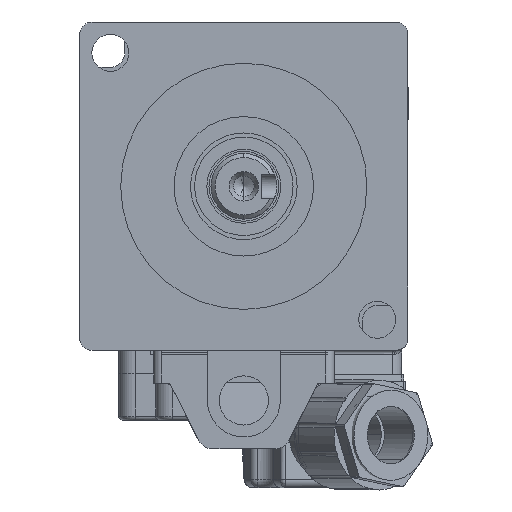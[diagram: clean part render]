
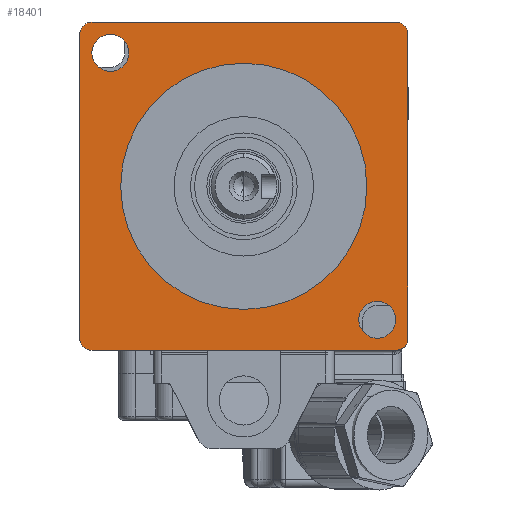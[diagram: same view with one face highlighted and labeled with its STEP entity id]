
A CAD part, front view. The second image highlights one B-rep face of the part: STEP entity #18401.
In plain terms, the highlighted planar face has unit normal (0, -1, 0).
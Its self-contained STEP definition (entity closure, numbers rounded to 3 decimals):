
#305 = ORIENTED_EDGE ( 'NONE', *, *, #23370, .F. ) ;
#501 = DIRECTION ( 'NONE',  ( 0., 1., 0. ) ) ;
#668 = CARTESIAN_POINT ( 'NONE',  ( -18.5, 0., 18.5 ) ) ;
#983 = EDGE_CURVE ( 'NONE', #3787, #11245, #6529, .T. ) ;
#1068 = CARTESIAN_POINT ( 'NONE',  ( 18.5, 0., 20. ) ) ;
#1900 = CARTESIAN_POINT ( 'NONE',  ( 18.5, 0., -20. ) ) ;
#2464 = LINE ( 'NONE', #38025, #25161 ) ;
#2936 = DIRECTION ( 'NONE',  ( 0., 0., 1. ) ) ;
#3413 = DIRECTION ( 'NONE',  ( 0., 0., 1. ) ) ;
#3612 = AXIS2_PLACEMENT_3D ( 'NONE', #30490, #501, #3413 ) ;
#3787 = VERTEX_POINT ( 'NONE', #1900 ) ;
#3856 = CARTESIAN_POINT ( 'NONE',  ( 18.5, 0., 18.5 ) ) ;
#4030 = VERTEX_POINT ( 'NONE', #36480 ) ;
#4035 = EDGE_CURVE ( 'NONE', #26130, #23804, #12776, .T. ) ;
#4267 = CARTESIAN_POINT ( 'NONE',  ( -20., 0., 18.5 ) ) ;
#4815 = AXIS2_PLACEMENT_3D ( 'NONE', #17801, #32421, #11444 ) ;
#5140 = CIRCLE ( 'NONE', #21738, 15. ) ;
#5387 = CIRCLE ( 'NONE', #26890, 15. ) ;
#5743 = EDGE_CURVE ( 'NONE', #4030, #37942, #18541, .T. ) ;
#6464 = DIRECTION ( 'NONE',  ( 0., 0., -1. ) ) ;
#6529 = LINE ( 'NONE', #30211, #26372 ) ;
#6531 = DIRECTION ( 'NONE',  ( 0., 0., 1. ) ) ;
#6584 = CARTESIAN_POINT ( 'NONE',  ( -16.263, 0., 18.513 ) ) ;
#6912 = FACE_BOUND ( 'NONE', #13960, .T. ) ;
#7401 = ORIENTED_EDGE ( 'NONE', *, *, #18769, .F. ) ;
#8638 = AXIS2_PLACEMENT_3D ( 'NONE', #15206, #29249, #2936 ) ;
#8728 = CARTESIAN_POINT ( 'NONE',  ( -18.5, 0., -20. ) ) ;
#8817 = VERTEX_POINT ( 'NONE', #14427 ) ;
#9311 = AXIS2_PLACEMENT_3D ( 'NONE', #668, #18909, #32794 ) ;
#9388 = CARTESIAN_POINT ( 'NONE',  ( 20., 0., 18.5 ) ) ;
#9426 = DIRECTION ( 'NONE',  ( 0., 1., 0. ) ) ;
#9497 = VERTEX_POINT ( 'NONE', #28578 ) ;
#9576 = PLANE ( 'NONE',  #23933 ) ;
#9655 = EDGE_CURVE ( 'NONE', #22314, #19864, #21404, .T. ) ;
#9914 = ORIENTED_EDGE ( 'NONE', *, *, #4035, .F. ) ;
#9971 = FACE_BOUND ( 'NONE', #16557, .T. ) ;
#10468 = CIRCLE ( 'NONE', #8638, 2.25 ) ;
#10748 = CARTESIAN_POINT ( 'NONE',  ( -20., 0., 12.5 ) ) ;
#11085 = ORIENTED_EDGE ( 'NONE', *, *, #29420, .T. ) ;
#11245 = VERTEX_POINT ( 'NONE', #8728 ) ;
#11284 = ORIENTED_EDGE ( 'NONE', *, *, #18634, .F. ) ;
#11436 = VERTEX_POINT ( 'NONE', #6584 ) ;
#11444 = DIRECTION ( 'NONE',  ( 0., 0., 1. ) ) ;
#11723 = EDGE_CURVE ( 'NONE', #11245, #13052, #14694, .T. ) ;
#12766 = DIRECTION ( 'NONE',  ( 0., 0., -1. ) ) ;
#12776 = CIRCLE ( 'NONE', #3612, 1.5 ) ;
#12926 = CIRCLE ( 'NONE', #23989, 1.5 ) ;
#12938 = DIRECTION ( 'NONE',  ( 0., 0., 1. ) ) ;
#13052 = VERTEX_POINT ( 'NONE', #32330 ) ;
#13090 = EDGE_LOOP ( 'NONE', ( #13298, #19834, #7401, #9914, #11284, #30683, #17983, #13096 ) ) ;
#13093 = VERTEX_POINT ( 'NONE', #29815 ) ;
#13096 = ORIENTED_EDGE ( 'NONE', *, *, #11723, .F. ) ;
#13118 = CARTESIAN_POINT ( 'NONE',  ( 16.263, 0., -14.013 ) ) ;
#13140 = CARTESIAN_POINT ( 'NONE',  ( 0., 0., 0. ) ) ;
#13298 = ORIENTED_EDGE ( 'NONE', *, *, #983, .F. ) ;
#13385 = EDGE_CURVE ( 'NONE', #13052, #37942, #26328, .T. ) ;
#13960 = EDGE_LOOP ( 'NONE', ( #11085, #35624 ) ) ;
#14319 = AXIS2_PLACEMENT_3D ( 'NONE', #36825, #30101, #22221 ) ;
#14427 = CARTESIAN_POINT ( 'NONE',  ( 0., 0., -15. ) ) ;
#14694 = CIRCLE ( 'NONE', #20832, 1.5 ) ;
#14855 = EDGE_CURVE ( 'NONE', #3787, #35587, #12926, .T. ) ;
#15179 = CARTESIAN_POINT ( 'NONE',  ( 16.263, 0., -16.263 ) ) ;
#15206 = CARTESIAN_POINT ( 'NONE',  ( -16.263, 0., 16.263 ) ) ;
#15305 = LINE ( 'NONE', #29919, #21500 ) ;
#15558 = DIRECTION ( 'NONE',  ( 0., 0., 1. ) ) ;
#15568 = CARTESIAN_POINT ( 'NONE',  ( 20., 0., -18.5 ) ) ;
#16557 = EDGE_LOOP ( 'NONE', ( #305, #26082 ) ) ;
#17552 = DIRECTION ( 'NONE',  ( 0., -1., 0. ) ) ;
#17801 = CARTESIAN_POINT ( 'NONE',  ( 16.263, 0., -16.263 ) ) ;
#17983 = ORIENTED_EDGE ( 'NONE', *, *, #13385, .F. ) ;
#18250 = DIRECTION ( 'NONE',  ( -1., 0., 0. ) ) ;
#18401 = ADVANCED_FACE ( 'NONE', ( #18442, #6912, #30183, #9971 ), #9576, .F. ) ;
#18442 = FACE_BOUND ( 'NONE', #36363, .T. ) ;
#18541 = CIRCLE ( 'NONE', #9311, 1.5 ) ;
#18634 = EDGE_CURVE ( 'NONE', #4030, #26130, #2464, .T. ) ;
#18769 = EDGE_CURVE ( 'NONE', #23804, #35587, #15305, .T. ) ;
#18909 = DIRECTION ( 'NONE',  ( 0., -1., 0. ) ) ;
#18921 = DIRECTION ( 'NONE',  ( 0., -1., 0. ) ) ;
#19287 = CARTESIAN_POINT ( 'NONE',  ( 18.5, 0., -18.5 ) ) ;
#19834 = ORIENTED_EDGE ( 'NONE', *, *, #14855, .T. ) ;
#19864 = VERTEX_POINT ( 'NONE', #13118 ) ;
#20832 = AXIS2_PLACEMENT_3D ( 'NONE', #23299, #35036, #37341 ) ;
#21404 = CIRCLE ( 'NONE', #4815, 2.25 ) ;
#21500 = VECTOR ( 'NONE', #6464, 1000. ) ;
#21738 = AXIS2_PLACEMENT_3D ( 'NONE', #13140, #18921, #12766 ) ;
#22221 = DIRECTION ( 'NONE',  ( 0., 0., 1. ) ) ;
#22314 = VERTEX_POINT ( 'NONE', #35970 ) ;
#22321 = EDGE_CURVE ( 'NONE', #19864, #22314, #34211, .T. ) ;
#22325 = CIRCLE ( 'NONE', #14319, 2.25 ) ;
#23299 = CARTESIAN_POINT ( 'NONE',  ( -18.5, 0., -18.5 ) ) ;
#23370 = EDGE_CURVE ( 'NONE', #9497, #8817, #5387, .T. ) ;
#23433 = VECTOR ( 'NONE', #25759, 1000. ) ;
#23804 = VERTEX_POINT ( 'NONE', #9388 ) ;
#23933 = AXIS2_PLACEMENT_3D ( 'NONE', #3856, #33434, #15558 ) ;
#23989 = AXIS2_PLACEMENT_3D ( 'NONE', #19287, #25446, #12938 ) ;
#24673 = ORIENTED_EDGE ( 'NONE', *, *, #22321, .T. ) ;
#25161 = VECTOR ( 'NONE', #34574, 1000. ) ;
#25446 = DIRECTION ( 'NONE',  ( 0., -1., 0. ) ) ;
#25759 = DIRECTION ( 'NONE',  ( 0., 0., 1. ) ) ;
#26082 = ORIENTED_EDGE ( 'NONE', *, *, #29481, .F. ) ;
#26130 = VERTEX_POINT ( 'NONE', #1068 ) ;
#26328 = LINE ( 'NONE', #10748, #23433 ) ;
#26372 = VECTOR ( 'NONE', #18250, 1000. ) ;
#26890 = AXIS2_PLACEMENT_3D ( 'NONE', #29680, #17552, #37775 ) ;
#28578 = CARTESIAN_POINT ( 'NONE',  ( 0., 0., 15. ) ) ;
#29249 = DIRECTION ( 'NONE',  ( 0., 1., 0. ) ) ;
#29420 = EDGE_CURVE ( 'NONE', #11436, #13093, #22325, .T. ) ;
#29481 = EDGE_CURVE ( 'NONE', #8817, #9497, #5140, .T. ) ;
#29680 = CARTESIAN_POINT ( 'NONE',  ( 0., 0., 0. ) ) ;
#29815 = CARTESIAN_POINT ( 'NONE',  ( -16.263, 0., 14.013 ) ) ;
#29919 = CARTESIAN_POINT ( 'NONE',  ( 20., 0., 18.5 ) ) ;
#30101 = DIRECTION ( 'NONE',  ( 0., 1., 0. ) ) ;
#30183 = FACE_OUTER_BOUND ( 'NONE', #13090, .T. ) ;
#30211 = CARTESIAN_POINT ( 'NONE',  ( -18.5, 0., -20. ) ) ;
#30490 = CARTESIAN_POINT ( 'NONE',  ( 18.5, 0., 18.5 ) ) ;
#30683 = ORIENTED_EDGE ( 'NONE', *, *, #5743, .T. ) ;
#32330 = CARTESIAN_POINT ( 'NONE',  ( -20., 0., -18.5 ) ) ;
#32421 = DIRECTION ( 'NONE',  ( 0., 1., 0. ) ) ;
#32794 = DIRECTION ( 'NONE',  ( 0., 0., -1. ) ) ;
#33034 = ORIENTED_EDGE ( 'NONE', *, *, #9655, .T. ) ;
#33434 = DIRECTION ( 'NONE',  ( 0., 1., 0. ) ) ;
#34211 = CIRCLE ( 'NONE', #37897, 2.25 ) ;
#34406 = EDGE_CURVE ( 'NONE', #13093, #11436, #10468, .T. ) ;
#34574 = DIRECTION ( 'NONE',  ( 1., 0., 0. ) ) ;
#35036 = DIRECTION ( 'NONE',  ( 0., 1., 0. ) ) ;
#35587 = VERTEX_POINT ( 'NONE', #15568 ) ;
#35624 = ORIENTED_EDGE ( 'NONE', *, *, #34406, .T. ) ;
#35970 = CARTESIAN_POINT ( 'NONE',  ( 16.263, 0., -18.513 ) ) ;
#36363 = EDGE_LOOP ( 'NONE', ( #24673, #33034 ) ) ;
#36480 = CARTESIAN_POINT ( 'NONE',  ( -18.5, 0., 20. ) ) ;
#36825 = CARTESIAN_POINT ( 'NONE',  ( -16.263, 0., 16.263 ) ) ;
#37341 = DIRECTION ( 'NONE',  ( 0., 0., 1. ) ) ;
#37775 = DIRECTION ( 'NONE',  ( 0., 0., -1. ) ) ;
#37897 = AXIS2_PLACEMENT_3D ( 'NONE', #15179, #9426, #6531 ) ;
#37942 = VERTEX_POINT ( 'NONE', #4267 ) ;
#38025 = CARTESIAN_POINT ( 'NONE',  ( -12.5, 0., 20. ) ) ;
